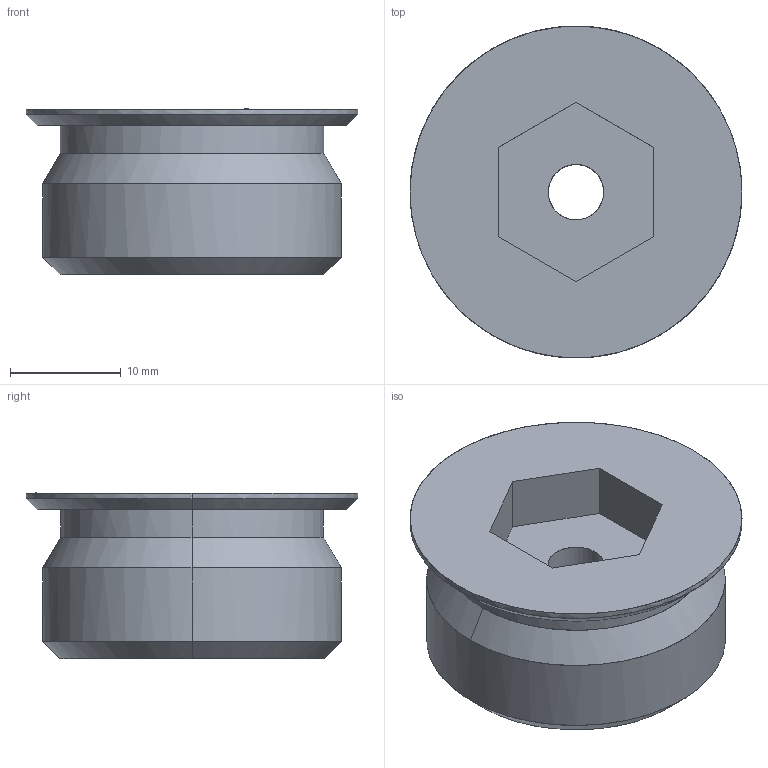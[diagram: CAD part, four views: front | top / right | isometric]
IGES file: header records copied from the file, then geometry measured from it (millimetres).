
Global section: file name: E:\UnigraphicsGraphicData\MISUMI_PRESS-PARTS\IGES\3d_mswzh27_00486_r00.igs; native system: NX V5.0; preprocessor: UGS NX IGES V5.0; author: MISUMI; date: 20110105.161529; units: millimetre
Bounding box: 30 x 30 x 15 mm (x, y, z)
Surface area: 3044.1 mm2 (no closed solid volume)
Topology: 0 solids, 0 shells, 24 faces, 156 edges, 156 vertices
Faces by surface type: bspline 24
